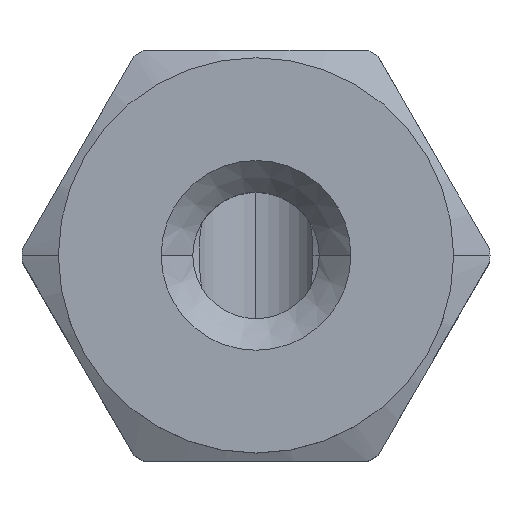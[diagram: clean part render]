
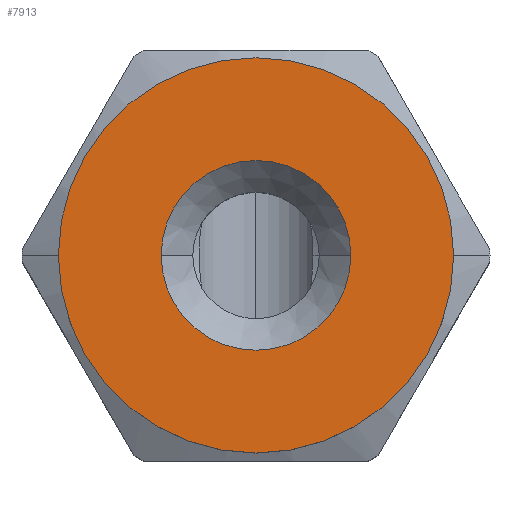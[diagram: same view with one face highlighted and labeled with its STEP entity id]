
A CAD part, top view. The second image highlights one B-rep face of the part: STEP entity #7913.
In plain terms, the highlighted planar face has unit normal (0, 0, 1).
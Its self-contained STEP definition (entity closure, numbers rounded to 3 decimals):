
#95 = DIRECTION ( 'NONE',  ( -1., 0., 0. ) ) ;
#594 = CARTESIAN_POINT ( 'NONE',  ( 0., 0., 47. ) ) ;
#1260 = FACE_OUTER_BOUND ( 'NONE', #3254, .T. ) ;
#1634 = DIRECTION ( 'NONE',  ( -1., 0., 0. ) ) ;
#1727 = VERTEX_POINT ( 'NONE', #4485 ) ;
#1990 = ORIENTED_EDGE ( 'NONE', *, *, #3111, .T. ) ;
#2211 = FACE_BOUND ( 'NONE', #10669, .T. ) ;
#2233 = CARTESIAN_POINT ( 'NONE',  ( 6.25, 0., 47. ) ) ;
#2542 = CARTESIAN_POINT ( 'NONE',  ( 3., 0., 47. ) ) ;
#2614 = VERTEX_POINT ( 'NONE', #7949 ) ;
#2655 = CIRCLE ( 'NONE', #3927, 3. ) ;
#2699 = CIRCLE ( 'NONE', #4925, 6.25 ) ;
#3111 = EDGE_CURVE ( 'NONE', #2614, #12511, #2655, .T. ) ;
#3254 = EDGE_LOOP ( 'NONE', ( #7447, #3580 ) ) ;
#3364 = AXIS2_PLACEMENT_3D ( 'NONE', #594, #7794, #1634 ) ;
#3561 = DIRECTION ( 'NONE',  ( -1., 0., 0. ) ) ;
#3580 = ORIENTED_EDGE ( 'NONE', *, *, #12952, .F. ) ;
#3927 = AXIS2_PLACEMENT_3D ( 'NONE', #11680, #5575, #12705 ) ;
#4485 = CARTESIAN_POINT ( 'NONE',  ( -6.25, 0., 47. ) ) ;
#4925 = AXIS2_PLACEMENT_3D ( 'NONE', #12317, #6236, #95 ) ;
#5268 = AXIS2_PLACEMENT_3D ( 'NONE', #2542, #9735, #3561 ) ;
#5319 = CARTESIAN_POINT ( 'NONE',  ( 0., 0., 47. ) ) ;
#5575 = DIRECTION ( 'NONE',  ( 0., 0., -1. ) ) ;
#6101 = CIRCLE ( 'NONE', #12255, 6.25 ) ;
#6236 = DIRECTION ( 'NONE',  ( 0., 0., -1. ) ) ;
#6381 = DIRECTION ( 'NONE',  ( -1., 0., 0. ) ) ;
#6915 = EDGE_CURVE ( 'NONE', #1727, #11249, #6101, .T. ) ;
#7447 = ORIENTED_EDGE ( 'NONE', *, *, #6915, .F. ) ;
#7681 = PLANE ( 'NONE',  #5268 ) ;
#7794 = DIRECTION ( 'NONE',  ( 0., 0., -1. ) ) ;
#7913 = ADVANCED_FACE ( 'NONE', ( #1260, #2211 ), #7681, .F. ) ;
#7949 = CARTESIAN_POINT ( 'NONE',  ( -3., 0., 47. ) ) ;
#9735 = DIRECTION ( 'NONE',  ( 0., 0., -1. ) ) ;
#10669 = EDGE_LOOP ( 'NONE', ( #10708, #1990 ) ) ;
#10708 = ORIENTED_EDGE ( 'NONE', *, *, #12473, .T. ) ;
#11249 = VERTEX_POINT ( 'NONE', #2233 ) ;
#11680 = CARTESIAN_POINT ( 'NONE',  ( 0., 0., 47. ) ) ;
#11810 = CIRCLE ( 'NONE', #3364, 3. ) ;
#11841 = CARTESIAN_POINT ( 'NONE',  ( 3., 0., 47. ) ) ;
#12255 = AXIS2_PLACEMENT_3D ( 'NONE', #5319, #12454, #6381 ) ;
#12317 = CARTESIAN_POINT ( 'NONE',  ( 0., 0., 47. ) ) ;
#12454 = DIRECTION ( 'NONE',  ( 0., 0., -1. ) ) ;
#12473 = EDGE_CURVE ( 'NONE', #12511, #2614, #11810, .T. ) ;
#12511 = VERTEX_POINT ( 'NONE', #11841 ) ;
#12705 = DIRECTION ( 'NONE',  ( -1., 0., 0. ) ) ;
#12952 = EDGE_CURVE ( 'NONE', #11249, #1727, #2699, .T. ) ;
